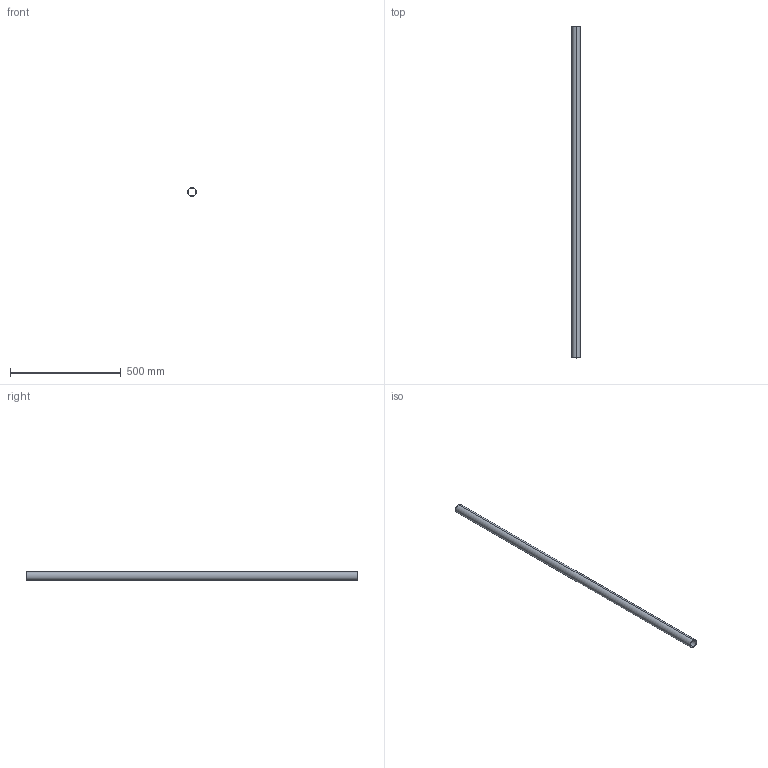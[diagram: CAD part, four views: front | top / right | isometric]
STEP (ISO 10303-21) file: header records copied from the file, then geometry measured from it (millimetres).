
FILE_DESCRIPTION (( 'STEP AP214' ), '1' );
FILE_NAME ('儂迮旋盓殤.STEP', '2024-07-15T01:14:00', ( 'China' ), ( 'Microsoft' ), 'SwSTEP 2.0', 'SolidWorks 2022', '' );
FILE_SCHEMA (( 'AUTOMOTIVE_DESIGN' ));
Length unit declared in the file: millimetre
Products named in the file (1): 儂迮旋盓殤
Bounding box: 40 x 1500 x 40 mm (x, y, z)
Volume: 358141.6 mm3; surface area: 358619.1 mm2
Topology: 1 solids, 1 shells, 6 faces, 12 edges, 8 vertices
Faces by surface type: cylinder 4, plane 2
Entity records: 202 total; most frequent: DIRECTION 34, CARTESIAN_POINT 27, ORIENTED_EDGE 24, AXIS2_PLACEMENT_3D 15, EDGE_CURVE 12, VERTEX_POINT 8, CIRCLE 8, EDGE_LOOP 8
